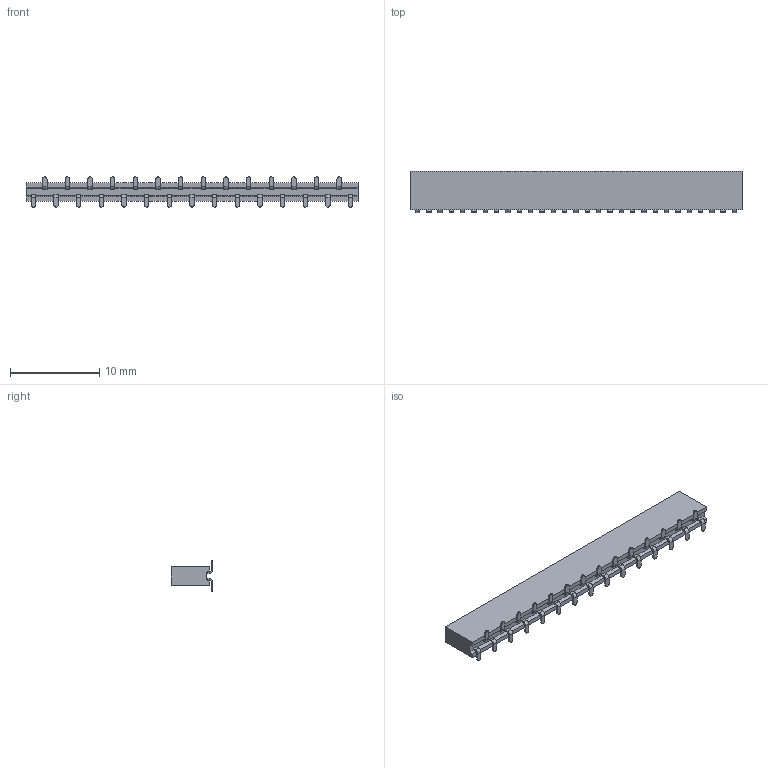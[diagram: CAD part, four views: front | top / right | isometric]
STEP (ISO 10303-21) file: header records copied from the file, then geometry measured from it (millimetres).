
FILE_DESCRIPTION (( 'STEP AP203' ), '1' );
FILE_NAME ('PM127-1-29-S-4.3-XX-2(L4.6) (1.27 等齬 齬譫 泂え 呿詢4.3-HCTL).STEP', '2026-02-26T06:59:21', ( '' ), ( '' ), 'SwSTEP 2.0', 'SolidWorks 2025', '' );
FILE_SCHEMA (( 'CONFIG_CONTROL_DESIGN' ));
Length unit declared in the file: millimetre
Products named in the file (1): PM127-1-29-S-4.3-XX-2(L4.6) (1.27 单排 排母 贴片 塑高4.3-HCTL)
Bounding box: 37.23 x 4.6 x 3.4 mm (x, y, z)
Volume: 309.5 mm3; surface area: 693.9 mm2
Topology: 1 solids, 1 shells, 588 faces, 1497 edges, 940 vertices
Faces by surface type: plane 445, cylinder 143
Entity records: 17492 total; most frequent: CARTESIAN_POINT 3026, ORIENTED_EDGE 2994, DIRECTION 2961, EDGE_CURVE 1497, VECTOR 1211, LINE 1211, VERTEX_POINT 940, AXIS2_PLACEMENT_3D 875
